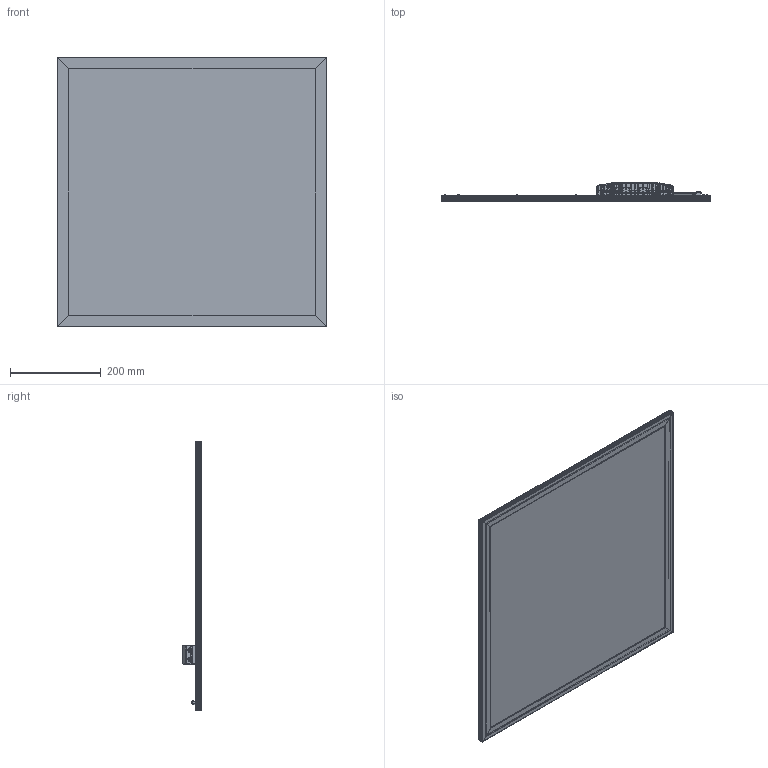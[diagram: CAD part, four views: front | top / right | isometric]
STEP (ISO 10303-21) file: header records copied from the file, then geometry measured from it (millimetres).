
FILE_DESCRIPTION (( 'STEP AP214' ), '1' );
FILE_NAME ('Flatpanel 595_UGR_mit Treiber.STEP', '2019-09-25T06:42:33', ( '' ), ( '' ), 'SwSTEP 2.0', 'SolidWorks 2017', '' );
FILE_SCHEMA (( 'AUTOMOTIVE_DESIGN' ));
Length unit declared in the file: millimetre
Products named in the file (7): 3X6_1_1-1; FlatPanelProfil_25_1_595; Flatpanel 595_UGR_mit Treiber; KSB_1-1; A5-BEIBAN_7-1; SHURUXIAN1_1-1; K33.1 ZE Gehäuse
Assembly tree (33 placements, depth 2):
  Flatpanel 595_UGR_mit Treiber
    FlatPanelProfil_25_1_595  x4
    KSB_1-1
    A5-BEIBAN_7-1
    SHURUXIAN1_1-1
    K33.1 ZE Gehäuse
    3X6_1_1-1  x25
Bounding box: 595 x 39.8 x 595 mm (x, y, z)
Volume: 795422.9 mm3; surface area: 1749471 mm2
Topology: 45 solids, 45 shells, 11722 faces, 33183 edges, 21768 vertices
Faces by surface type: plane 9222, bspline 1345, cylinder 1050, cone 105
Entity records: 324556 total; most frequent: CARTESIAN_POINT 71825, ORIENTED_EDGE 55908, DIRECTION 46676, EDGE_CURVE 27954, VECTOR 24776, LINE 24776, VERTEX_POINT 18432, AXIS2_PLACEMENT_3D 10950
